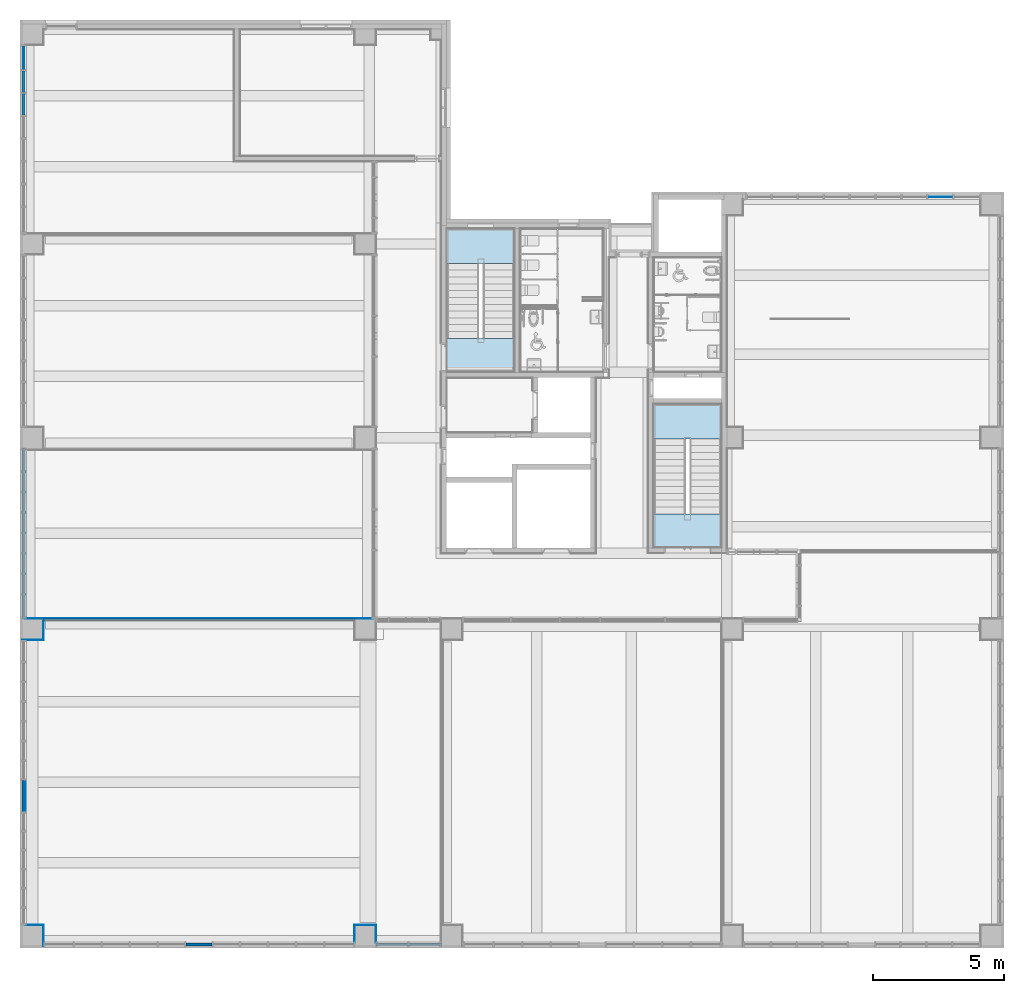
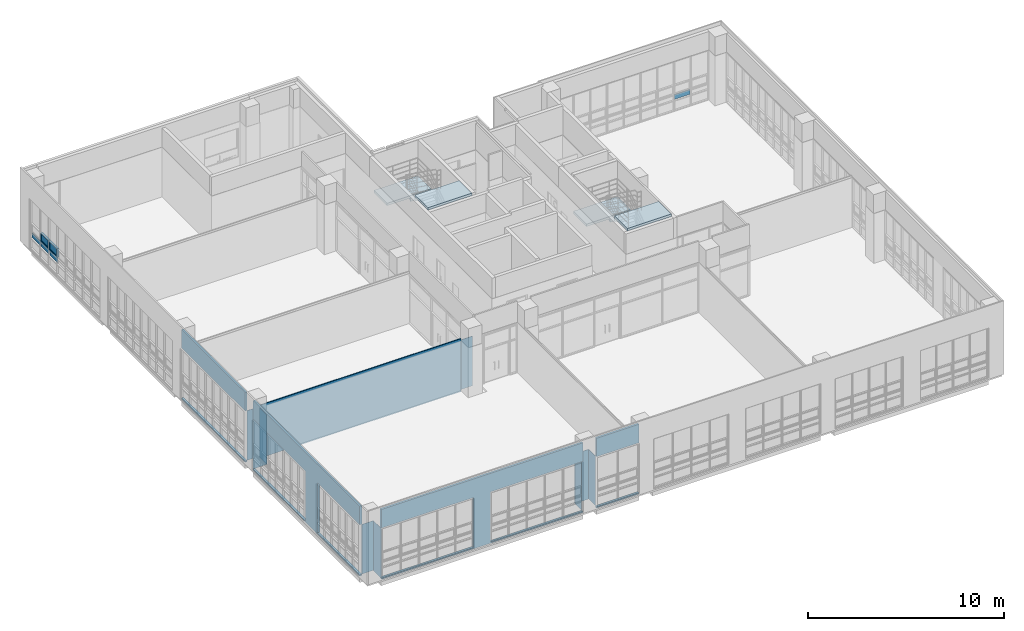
# One storey, part 45 of 74: 14 walls, 6 plates, 4 slabs, 6 openings, 4 elements without a shape of their own.
"""IFC2X3 building model written with IfcOpenShell, lengths in millimetres."""

from ifc_helpers import new_model, entity, si_unit, converted_unit, derived_unit, direction, frame, frame_2d, origin, origin_2d_with_axis, place, context, subcontext, project, spatial, polyline, rectangle, outline, extrude, clip, bounded_halfspace, faceted_brep, source, transform, mapped, material, material_list, layer, layer_set, layer_usage, type_object, type_shapes, element, aggregate, save


model = new_model("IFC2X3")

# Units and contexts
model_context = context("Model", 3, precision=0.01, world=origin(), true_north=direction((6.123031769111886e-17, 1.0)))
body_context = subcontext(model_context, "Body", "Model", "MODEL_VIEW")
ifc_project = project(units=[si_unit("LENGTHUNIT", "METRE", prefix="MILLI"), si_unit("AREAUNIT", "SQUARE_METRE"), si_unit("VOLUMEUNIT", "CUBIC_METRE"), converted_unit("PLANEANGLEUNIT", "DEGREE", entity("IfcRatioMeasure", 0.017453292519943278), si_unit("PLANEANGLEUNIT", "RADIAN"), dimensions=[0, 0, 0, 0, 0, 0, 0]), si_unit("MASSUNIT", "GRAM", prefix="KILO"), derived_unit("MASSDENSITYUNIT", [(si_unit("MASSUNIT", "GRAM", prefix="KILO"), 1), (si_unit("LENGTHUNIT", "METRE"), -3)]), derived_unit("MOMENTOFINERTIAUNIT", [(si_unit("LENGTHUNIT", "METRE"), 4)]), si_unit("TIMEUNIT", "SECOND"), si_unit("FREQUENCYUNIT", "HERTZ"), si_unit("THERMODYNAMICTEMPERATUREUNIT", "DEGREE_CELSIUS"), derived_unit("THERMALTRANSMITTANCEUNIT", [(si_unit("MASSUNIT", "GRAM", prefix="KILO"), 1), (si_unit("THERMODYNAMICTEMPERATUREUNIT", "KELVIN"), -1), (si_unit("TIMEUNIT", "SECOND"), -3)]), derived_unit("VOLUMETRICFLOWRATEUNIT", [(si_unit("LENGTHUNIT", "METRE"), 3), (si_unit("TIMEUNIT", "SECOND"), -1)]), derived_unit("MASSFLOWRATEUNIT", [(si_unit("MASSUNIT", "GRAM", prefix="KILO"), 1), (si_unit("TIMEUNIT", "SECOND"), -1)]), derived_unit("ROTATIONALFREQUENCYUNIT", [(si_unit("TIMEUNIT", "SECOND"), -1)]), si_unit("ELECTRICCURRENTUNIT", "AMPERE"), si_unit("ELECTRICVOLTAGEUNIT", "VOLT"), si_unit("POWERUNIT", "WATT"), si_unit("FORCEUNIT", "NEWTON", prefix="KILO"), si_unit("ILLUMINANCEUNIT", "LUX"), si_unit("LUMINOUSFLUXUNIT", "LUMEN"), si_unit("LUMINOUSINTENSITYUNIT", "CANDELA"), derived_unit("USERDEFINED", [(si_unit("MASSUNIT", "GRAM", prefix="KILO"), -1), (si_unit("LENGTHUNIT", "METRE"), -2), (si_unit("TIMEUNIT", "SECOND"), 3), (si_unit("LUMINOUSFLUXUNIT", "LUMEN"), 1)]), derived_unit("SOUNDPOWERUNIT", [(si_unit("MASSUNIT", "GRAM", prefix="KILO"), 1), (si_unit("LENGTHUNIT", "METRE"), 2), (si_unit("TIMEUNIT", "SECOND"), -3)]), derived_unit("SOUNDPRESSUREUNIT", [(si_unit("MASSUNIT", "GRAM", prefix="KILO"), 1), (si_unit("LENGTHUNIT", "METRE"), -1), (si_unit("TIMEUNIT", "SECOND"), -2)]), derived_unit("LINEARVELOCITYUNIT", [(si_unit("LENGTHUNIT", "METRE"), 1), (si_unit("TIMEUNIT", "SECOND"), -1)]), si_unit("PRESSUREUNIT", "PASCAL"), derived_unit("USERDEFINED", [(si_unit("LENGTHUNIT", "METRE"), -2), (si_unit("MASSUNIT", "GRAM", prefix="KILO"), 1), (si_unit("TIMEUNIT", "SECOND"), -2)]), derived_unit("LINEARFORCEUNIT", [(si_unit("MASSUNIT", "GRAM", prefix="KILO"), 1), (si_unit("LENGTHUNIT", "METRE"), 1), (si_unit("TIMEUNIT", "SECOND"), -2), (si_unit("LENGTHUNIT", "METRE"), -1)]), derived_unit("PLANARFORCEUNIT", [(si_unit("MASSUNIT", "GRAM", prefix="KILO"), 1), (si_unit("LENGTHUNIT", "METRE"), 1), (si_unit("TIMEUNIT", "SECOND"), -2), (si_unit("LENGTHUNIT", "METRE"), -2)])], contexts=[model_context])

# Site, building, storey
site_placement = place(None, frame((-14167.972527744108, -657.2125860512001, 0.0)))
site = spatial("IfcSite", under=ifc_project, at=site_placement, Name="Default", CompositionType="ELEMENT")
building_placement = place(site_placement, origin())
building = spatial("IfcBuilding", under=site, at=building_placement, Name="Sample Building", CompositionType="ELEMENT")
storey_placement = place(building_placement, frame((0.0, 0.0, 4800.0)))
storey = spatial("IfcBuildingStorey", under=building, at=storey_placement, Name="지상 2층", CompositionType="ELEMENT", Elevation=4800.000000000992)

# Curtain wall, plates
curtain_wall_type = type_object("IfcCurtainWallType", Name="커튼월:CW112-스테인리스 스틸 커튼월", PredefinedType="NOTDEFINED")
curtain_wall_1_placement = place(storey_placement, frame((0.0, 0.0, -4800.0)))
curtain_wall_1 = element("IfcCurtainWall", 1, at=curtain_wall_1_placement, inside=storey, type_object=curtain_wall_type, Name="커튼월:CW112-스테인리스 스틸 커튼월", ObjectType="커튼월:CW112-스테인리스 스틸 커튼월")
ifc_material_1 = material(Name="KBIMS-로이유리(코팅)")
plate_type_1 = type_object("IfcPlateType", Name="CW300-THK24.Low-e coating glass:CW300-THK24.Low-e coating glass", PredefinedType="CURTAIN_PANEL", material=ifc_material_1)
shared_shape_1 = source(origin(), body_context, "Body", "SweptSolid", [
    extrude(rectangle(XDim=24.000000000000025, YDim=903.7499999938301, at=origin_2d_with_axis()), frame((0.0, 0.0, 0.0), z_axis=(0.0, 0.0, 1.0), x_axis=(0.0, 1.0, 0.0)), (0.0, 0.0, 1.0), 300.0000000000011),
])
type_shapes(plate_type_1, [shared_shape_1])
plate_1_placement = place(curtain_wall_1_placement, frame((14130.455105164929, 34465.33727524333, 5555.0), z_axis=(0.0, 0.0, 1.0), x_axis=(0.0, -1.0, 0.0)))
plate_1 = element("IfcPlate", 2, at=plate_1_placement, type_object=plate_type_1, material=ifc_material_1, Name="CW300-THK24.Low-e coating glass:CW300-THK24.Low-e coating glass", ObjectType="CW300-THK24.Low-e coating glass:CW300-THK24.Low-e coating glass", context=body_context, shape_type="MappedRepresentation", body=[
    mapped(shared_shape_1, transform((0.0, 0.0, 0.0), scale=1.0)),
])
plate_type_2 = type_object("IfcPlateType", Name="CW300-THK24.Low-e coating glass:CW300-THK24.Low-e coating glass", PredefinedType="CURTAIN_PANEL", material=ifc_material_1)
shared_shape_2 = source(origin(), body_context, "Body", "SweptSolid", [
    extrude(rectangle(XDim=24.000000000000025, YDim=818.7500000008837, at=origin_2d_with_axis()), frame((0.0, 0.0, 0.0), z_axis=(0.0, 0.0, 1.0), x_axis=(0.0, 1.0, 0.0)), (0.0, 0.0, 1.0), 300.0000000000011),
])
type_shapes(plate_type_2, [shared_shape_2])
plate_2_placement = place(curtain_wall_1_placement, frame((14130.455105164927, 33554.08727524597, 5555.0), z_axis=(0.0, 0.0, 1.0), x_axis=(0.0, -1.0, 0.0)))
plate_2 = element("IfcPlate", 3, at=plate_2_placement, type_object=plate_type_2, material=ifc_material_1, Name="CW300-THK24.Low-e coating glass:CW300-THK24.Low-e coating glass", ObjectType="CW300-THK24.Low-e coating glass:CW300-THK24.Low-e coating glass", context=body_context, shape_type="MappedRepresentation", body=[
    mapped(shared_shape_2, transform((0.0, 0.0, 0.0), scale=1.0)),
])
plate_3_placement = place(curtain_wall_1_placement, frame((14130.455105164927, 32685.33727524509, 5555.0), z_axis=(0.0, 0.0, 1.0), x_axis=(0.0, -1.0, 0.0)))
plate_3 = element("IfcPlate", 4, at=plate_3_placement, type_object=plate_type_2, material=ifc_material_1, Name="CW300-THK24.Low-e coating glass:CW300-THK24.Low-e coating glass", ObjectType="CW300-THK24.Low-e coating glass:CW300-THK24.Low-e coating glass", context=body_context, shape_type="MappedRepresentation", body=[
    mapped(shared_shape_2, transform((0.0, 0.0, 0.0), scale=1.0)),
])
ifc_material_2 = material(Name="KBIMS-유리")
ifc_material_3 = material(Name="KBIMS-알루미늄")
ifc_material_list_1 = material_list([ifc_material_2, ifc_material_3])
ifc_material_list_2 = material_list([ifc_material_2, ifc_material_3])
plate_type_3 = type_object("IfcPlateType", Name="CW410-프로젝트 창:CW410-프로젝트 창 (하부개폐)", PredefinedType="CURTAIN_PANEL", material=ifc_material_list_2)
shared_shape_3 = source(origin(), body_context, "Body", "SweptSolid", [
    extrude(rectangle(XDim=718.7500000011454, YDim=23.999999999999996, at=origin_2d_with_axis()), frame((0.0, -0.04999999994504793, 50.0), z_axis=(0.0, 0.0, 1.0), x_axis=(-1.0, 0.0, 0.0)), (0.0, 0.0, 1.0), 450.0000000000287),
    extrude(outline(polyline([(-409.37500000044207, -275.0), (409.37500000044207, -275.0), (409.37500000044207, 275.0), (-409.37500000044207, 275.0), (-409.37500000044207, -275.0)]), holes=[polyline([(-359.3750000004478, -225.0), (-359.37500000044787, 225.0), (359.3750000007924, 225.0), (359.3750000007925, -225.0), (-359.3750000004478, -225.0)])]), frame((0.0, -50.04999999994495, 275.0), z_axis=(0.0, 1.0, 0.0), x_axis=(1.0, 0.0, 0.0)), (0.0, 0.0, 1.0), 99.99999999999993),
])
type_shapes(plate_type_3, [shared_shape_3])
plate_4_placement = place(curtain_wall_1_placement, frame((14130.455105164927, 33554.08727524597, 5905.0), z_axis=(0.0, 0.0, 1.0), x_axis=(0.0, -1.0, 0.0)))
plate_4 = element("IfcPlate", 5, at=plate_4_placement, type_object=plate_type_3, material=ifc_material_list_1, Name="CW410-프로젝트 창:CW410-프로젝트 창 (하부개폐)", ObjectType="CW410-프로젝트 창:CW410-프로젝트 창 (하부개폐)", context=body_context, shape_type="MappedRepresentation", body=[
    mapped(shared_shape_3, transform((0.0, 0.0, 0.0), scale=1.0)),
])
ifc_material_list_3 = material_list([ifc_material_2, ifc_material_3])
plate_5_placement = place(curtain_wall_1_placement, frame((14130.455105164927, 32685.33727524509, 5905.0), z_axis=(0.0, 0.0, 1.0), x_axis=(0.0, -1.0, 0.0)))
plate_5 = element("IfcPlate", 6, at=plate_5_placement, type_object=plate_type_3, material=ifc_material_list_3, Name="CW410-프로젝트 창:CW410-프로젝트 창 (하부개폐)", ObjectType="CW410-프로젝트 창:CW410-프로젝트 창 (하부개폐)", context=body_context, shape_type="MappedRepresentation", body=[
    mapped(shared_shape_3, transform((0.0, 0.0, 0.0), scale=1.0)),
])
aggregate(curtain_wall_1, [plate_1, plate_2, plate_3, plate_4, plate_5])

# Curtain wall, plate
curtain_wall_2_placement = place(storey_placement, frame((0.0, 0.0, -4800.0)))
curtain_wall_2 = element("IfcCurtainWall", 7, at=curtain_wall_2_placement, inside=storey, type_object=curtain_wall_type, Name="커튼월:CW112-스테인리스 스틸 커튼월", ObjectType="커튼월:CW112-스테인리스 스틸 커튼월")
plate_type_4 = type_object("IfcPlateType", Name="CW300-THK24.Low-e coating glass:CW300-THK24.Low-e coating glass", PredefinedType="CURTAIN_PANEL", material=ifc_material_1)
shared_shape_4 = source(origin(), body_context, "Body", "SweptSolid", [
    extrude(rectangle(XDim=938.8888888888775, YDim=24.000000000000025, at=origin_2d_with_axis()), frame((0.0, 0.0, 0.0), z_axis=(0.0, 0.0, 1.0), x_axis=(-1.0, 0.0, 0.0)), (0.0, 0.0, 1.0), 300.0),
])
type_shapes(plate_type_4, [shared_shape_4])
plate_6_placement = place(curtain_wall_2_placement, frame((49114.21332519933, 29157.212295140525, 5555.0), z_axis=(0.0, 0.0, 1.0), x_axis=(-1.0, 0.0, 0.0)))
plate_6 = element("IfcPlate", 8, at=plate_6_placement, type_object=plate_type_4, material=ifc_material_1, Name="CW300-THK24.Low-e coating glass:CW300-THK24.Low-e coating glass", ObjectType="CW300-THK24.Low-e coating glass:CW300-THK24.Low-e coating glass", context=body_context, shape_type="MappedRepresentation", body=[
    mapped(shared_shape_4, transform((0.0, 0.0, 0.0), scale=1.0)),
])
aggregate(curtain_wall_2, [plate_6])

# Stair, slabs
stair_1_placement = place(storey_placement, origin())
stair_1 = element("IfcStair", 9, at=stair_1_placement, inside=storey, Name="현장타설 계단:계단", ObjectType="현장타설 계단:ST111-철근콘크리트구조 계단 (U형)", ShapeType="NOTDEFINED")
ifc_material_4 = material(Name="KBIMS-콘크리트")
slab_type_1 = type_object("IfcSlabType", Name="일체형 계단참:일체형 계단참 150mm_철근콘크리트", PredefinedType="LANDING")
slab_1_placement = place(stair_1_placement, frame((30267.963761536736, 26617.17766047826, 0.0)))
slab_1 = element("IfcSlab", 10, at=slab_1_placement, type_object=slab_type_1, material=ifc_material_4, Name="현장타설 계단:계단:5948802 Landing 1", ObjectType="일체형 계단참:일체형 계단참 150mm_철근콘크리트", PredefinedType="LANDING", context=body_context, shape_type="Brep", body=[
    faceted_brep([(1375.0087136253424, 0.0, 2250.0), (2598.1542295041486, 0.0, 2250.0), (2598.1542295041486, 308.44492586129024, 2250.0), (2598.1542295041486, 1340.0346475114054, 2250.0), (0.0, 1340.0346475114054, 2250.0), (0.0, 0.0, 2250.0), (1248.1620529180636, 0.0, 2250.0), (1375.0087136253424, 0.0, 2100.0), (1375.0087136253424, 0.0, 2062.499999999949), (1375.0087136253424, 0.0, 1877.5637553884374), (2598.1542295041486, 0.0, 1877.5637553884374), (2598.1542295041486, 0.0, 2062.499999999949), (2598.1542295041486, 308.44492586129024, 2100.0), (2598.1542295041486, 1340.0346475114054, 2100.0), (0.0, 1340.0346475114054, 2100.0), (0.0, 0.0, 2100.0), (1248.1620529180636, 0.0, 2100.0), (1375.0087136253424, 308.44492586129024, 2100.0)], [[[0, 1, 2, 3, 4, 5, 6]], [[1, 0, 7, 8, 9, 10, 11]], [[1, 11, 10, 12, 13, 3, 2]], [[4, 3, 13, 14]], [[5, 4, 14, 15]], [[6, 5, 15, 16]], [[0, 6, 16, 7]], [[12, 17, 7, 16, 15, 14, 13]], [[17, 12, 10, 9]], [[7, 17, 9, 8]]]),
])
slab_type_2 = type_object("IfcSlabType", Name="일체형 계단참:일체형 계단참 150mm_철근콘크리트", PredefinedType="LANDING")
slab_2_placement = place(stair_1_placement, frame((30266.40695082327, 22457.21231133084, 0.0)))
slab_2 = element("IfcSlab", 11, at=slab_2_placement, type_object=slab_type_2, material=ifc_material_4, Name="현장타설 계단:계단:5948802 Landing 2", ObjectType="일체형 계단참:일체형 계단참 150mm_철근콘크리트", PredefinedType="LANDING", context=body_context, shape_type="Brep", body=[
    faceted_brep([(1249.7188636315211, 1299.9653491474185, 4500.0), (1.5568107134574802, 1299.9653491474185, 4500.0), (0.0, 1299.9653491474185, 4500.0), (0.0, 0.0, 4500.0), (2599.711040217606, 0.0, 4500.0), (2599.711040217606, 1299.9653491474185, 4500.0), (0.0, 0.0, 4350.0), (2599.711040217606, 0.0, 4350.0), (2599.711040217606, 1299.9653491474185, 4350.0), (0.0, 1299.9653491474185, 4350.0), (1.5568107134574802, 991.5204232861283, 4350.0), (1249.7188636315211, 991.5204232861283, 4350.0), (1249.7188636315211, 1299.9653491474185, 4350.0), (1.5568107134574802, 1299.9653491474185, 4350.0), (1249.7188636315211, 1299.9653491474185, 4312.500000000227), (1249.7188636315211, 1299.9653491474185, 4127.563755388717), (1.5568107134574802, 1299.9653491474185, 4127.563755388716), (1.5568107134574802, 1299.9653491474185, 4312.500000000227)], [[[0, 1, 2, 3, 4, 5]], [[4, 3, 6, 7]], [[5, 4, 7, 8]], [[3, 2, 9, 6]], [[10, 11, 12, 8, 7, 6, 9, 13]], [[1, 0, 12, 14, 15, 16, 17, 13]], [[0, 5, 8, 12]], [[11, 10, 16, 15]], [[10, 13, 17, 16]], [[12, 11, 15, 14]], [[2, 1, 13, 9]]]),
])
aggregate(stair_1, [slab_1, slab_2])

stair_2_placement = place(storey_placement, origin())
stair_2 = element("IfcStair", 12, at=stair_2_placement, inside=storey, Name="현장타설 계단:계단", ObjectType="현장타설 계단:ST111-철근콘크리트구조 계단 (U형)", ShapeType="NOTDEFINED")
slab_type_3 = type_object("IfcSlabType", Name="일체형 계단참:일체형 계단참 150mm_철근콘크리트", PredefinedType="LANDING")
slab_3_placement = place(stair_2_placement, frame((38159.80174523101, 19917.17764428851, 0.0)))
slab_3 = element("IfcSlab", 13, at=slab_3_placement, type_object=slab_type_3, material=ifc_material_4, Name="현장타설 계단:계단:5959476 Landing 1", ObjectType="일체형 계단참:일체형 계단참 150mm_철근콘크리트", PredefinedType="LANDING", context=body_context, shape_type="Brep", body=[
    faceted_brep([(1375.0087136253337, 0.0, 2250.0), (2598.1542295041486, 0.0, 2250.0), (2598.1542295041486, 308.44492586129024, 2250.0), (2598.1542295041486, 1340.0346475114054, 2250.0), (0.0, 1340.0346475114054, 2250.0), (0.0, 0.0, 2250.0), (1248.1620529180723, 0.0, 2250.0), (1375.0087136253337, 0.0, 2100.0), (1375.0087136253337, 0.0, 2062.499999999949), (1375.0087136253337, 0.0, 1877.5637553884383), (2598.1542295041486, 0.0, 1877.5637553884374), (2598.1542295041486, 0.0, 2062.499999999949), (2598.1542295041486, 308.44492586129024, 2100.0), (2598.1542295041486, 1340.0346475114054, 2100.0), (0.0, 1340.0346475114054, 2100.0), (0.0, 0.0, 2100.0), (1248.1620529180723, 0.0, 2100.0), (1375.0087136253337, 308.44492586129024, 2100.0)], [[[0, 1, 2, 3, 4, 5, 6]], [[1, 0, 7, 8, 9, 10, 11]], [[1, 11, 10, 12, 13, 3, 2]], [[4, 3, 13, 14]], [[5, 4, 14, 15]], [[6, 5, 15, 16]], [[0, 6, 16, 7]], [[12, 17, 7, 16, 15, 14, 13]], [[17, 12, 10, 9]], [[7, 17, 9, 8]]]),
])
slab_type_4 = type_object("IfcSlabType", Name="일체형 계단참:일체형 계단참 150mm_철근콘크리트", PredefinedType="LANDING")
slab_4_placement = place(stair_2_placement, frame((38158.244934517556, 15757.212295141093, 0.0)))
slab_4 = element("IfcSlab", 14, at=slab_4_placement, type_object=slab_type_4, material=ifc_material_4, Name="현장타설 계단:계단:5959476 Landing 2", ObjectType="일체형 계단참:일체형 계단참 150mm_철근콘크리트", PredefinedType="LANDING", context=body_context, shape_type="Brep", body=[
    faceted_brep([(1249.7188636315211, 1299.9653491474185, 4500.0), (1.5568107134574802, 1299.9653491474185, 4500.0), (0.0, 1299.9653491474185, 4500.0), (0.0, 0.0, 4500.0), (2599.711040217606, 0.0, 4500.0), (2599.711040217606, 1299.9653491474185, 4500.0), (0.0, 0.0, 4350.0), (2599.711040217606, 0.0, 4350.0), (2599.711040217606, 1299.9653491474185, 4350.0), (0.0, 1299.9653491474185, 4350.0), (1.5568107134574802, 991.5204232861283, 4350.0), (1249.7188636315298, 991.5204232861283, 4350.0), (1249.7188636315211, 1299.9653491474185, 4350.0), (1.5568107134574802, 1299.9653491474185, 4350.0), (1249.7188636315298, 1299.9653491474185, 4312.500000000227), (1249.7188636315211, 1299.9653491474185, 4127.563755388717), (1.5568107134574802, 1299.9653491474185, 4127.563755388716), (1.5568107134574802, 1299.9653491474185, 4312.500000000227)], [[[0, 1, 2, 3, 4, 5]], [[4, 3, 6, 7]], [[5, 4, 7, 8]], [[3, 2, 9, 6]], [[10, 11, 12, 8, 7, 6, 9, 13]], [[1, 0, 12, 14, 15, 16, 17, 13]], [[0, 5, 8, 12]], [[11, 10, 16, 15]], [[10, 13, 17, 16]], [[12, 11, 15, 14]], [[2, 1, 13, 9]]]),
])
aggregate(stair_2, [slab_3, slab_4])

# Wall
ifc_material_5 = material(Name="KBIMS-DRY WALL")
ifc_layer_1 = layer(ifc_material_5, 12.5)
ifc_material_6 = material(Name="KBIMS-경량철골벽틀")
ifc_layer_2 = layer(ifc_material_6, 50.0)
ifc_layer_set_1 = layer_set([ifc_layer_1, ifc_layer_2], Name="기본 벽:WA731-DRY WALL(C50, GS12.5mm) (1겹한면, GW50mm) 62.5mm")
ifc_layer_usage_1 = layer_usage(ifc_layer_set_1, "AXIS2", "NEGATIVE", 31.250000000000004)
wall_type_1 = type_object("IfcWallType", Name="기본 벽:WA731-DRY WALL(C50, GS12.5mm) (1겹한면, GW50mm) 62.5mm", PredefinedType="STANDARD", material=ifc_layer_set_1)
wall_1_placement = place(storey_placement, frame((14866.980314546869, 13025.927624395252, 0.0)))
element("IfcWallStandardCase", 15, at=wall_1_placement, inside=storey, type_object=wall_type_1, material=ifc_layer_usage_1, Name="기본 벽:WA731-DRY WALL(C50, GS12.5mm) (1겹한면, GW50mm) 62.5mm", ObjectType="기본 벽:WA731-DRY WALL(C50, GS12.5mm) (1겹한면, GW50mm) 62.5mm", context=body_context, shape_type="SweptSolid", body=[
    extrude(rectangle(XDim=11900.992176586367, YDim=62.50000000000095, at=frame_2d((5950.496088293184, -1.3606893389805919e-12), x_axis=(-1.0, 0.0))), origin(), (0.0, 0.0, 1.0), 3300.0000000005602),
])

# Wall, opening
ifc_layer_3 = layer(ifc_material_4, 125.00000000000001)
ifc_layer_set_2 = layer_set([ifc_layer_3], Name="기본 벽:WA111-철근콘크리트구조 벽 125mm_W3")
ifc_layer_usage_2 = layer_usage(ifc_layer_set_2, "AXIS2", "NEGATIVE", 62.50000000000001)
wall_type_2 = type_object("IfcWallType", Name="기본 벽:WA111-철근콘크리트구조 벽 125mm_W3", PredefinedType="STANDARD", material=ifc_layer_set_2)
wall_2_placement = place(storey_placement, frame((14130.472570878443, 19557.212307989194, -1.9340006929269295e-09), z_axis=(0.0, 0.0, 1.0), x_axis=(0.0, -1.0, 0.0)))
wall_2 = element("IfcWallStandardCase", 16, at=wall_2_placement, inside=storey, type_object=wall_type_2, material=ifc_layer_usage_2, Name="기본 벽:WA111-철근콘크리트구조 벽 125mm_W3", ObjectType="기본 벽:WA111-철근콘크리트구조 벽 125mm_W3", context=body_context, shape_type="Clipping", body=[
    clip(extrude(rectangle(XDim=6499.999999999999, YDim=124.99999999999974, at=frame_2d((3249.9999999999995, 1.0835776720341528e-12), x_axis=(-1.0, 0.0))), origin(), (0.0, 0.0, 1.0), 4350.000000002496), bounded_halfspace(frame((0.0, -62.499999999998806, 4350.0), z_axis=(0.0, 0.0, -1.0), x_axis=(0.0, 1.0, 0.0)), True, frame((0.0, -62.499999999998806, 4350.0), z_axis=(0.0, 0.0, -1.0), x_axis=(0.0, 1.0, 0.0)), polyline([(0.0, 0.0), (38100.0, 0.0), (38100.0, 1981200.0), (0.0, 1981200.0), (0.0, 0.0)]))),
])
opening_1_placement = place(wall_2_placement, origin())
element("IfcOpeningElement", 17, at=opening_1_placement, cuts=wall_2, Name="기본 벽:WA111-철근콘크리트구조 벽 125mm_W3", ObjectType="Opening", context=body_context, shape_type="SweptSolid", body=[
    extrude(rectangle(XDim=3120.0000000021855, YDim=6500.0, at=frame_2d((-5.684341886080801e-13, -2.0463630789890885e-12), x_axis=(1.0, 0.0))), frame((3250.0, -214.89999999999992, 1640.0), z_axis=(0.0, 1.0, 0.0), x_axis=(0.0, 0.0, 1.0)), (0.0, 0.0, 1.0), 429.7999999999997),
])

# Wall, openings
ifc_layer_usage_3 = layer_usage(ifc_layer_set_2, "AXIS2", "POSITIVE", -62.50000000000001)
wall_3_placement = place(storey_placement, frame((14130.47257087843, 1357.2118860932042, -1.9340006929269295e-09), z_axis=(0.0, 0.0, 1.0), x_axis=(0.0, 1.0, 0.0)))
wall_3 = element("IfcWallStandardCase", 18, at=wall_3_placement, inside=storey, type_object=wall_type_2, material=ifc_layer_usage_3, Name="기본 벽:WA111-철근콘크리트구조 벽 125mm_W3", ObjectType="기본 벽:WA111-철근콘크리트구조 벽 125mm_W3", context=body_context, shape_type="Clipping", body=[
    clip(extrude(rectangle(XDim=10882.000421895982, YDim=124.99999999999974, at=frame_2d((5441.000210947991, 1.0409451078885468e-12), x_axis=(-1.0, 0.0))), origin(), (0.0, 0.0, 1.0), 4350.000000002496), bounded_halfspace(frame((0.0, -62.49999999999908, 4350.0), z_axis=(0.0, 0.0, -1.0), x_axis=(0.0, -1.0, 0.0)), True, frame((0.0, -62.49999999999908, 4350.0), z_axis=(0.0, 0.0, -1.0), x_axis=(0.0, -1.0, 0.0)), polyline([(0.0, 0.0), (-38100.0, 0.0), (-38100.0, -3316833.7285938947), (1.5183962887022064e-08, -3316833.7285938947), (0.0, 0.0)]))),
])
opening_2_placement = place(wall_3_placement, origin())
element("IfcOpeningElement", 19, at=opening_2_placement, cuts=wall_3, Name="기본 벽:WA111-철근콘크리트구조 벽 125mm_W3", ObjectType="Opening", context=body_context, shape_type="SweptSolid", body=[
    extrude(rectangle(XDim=3120.0000000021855, YDim=5357.000032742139, at=frame_2d((0.0, -5.684341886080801e-13), x_axis=(0.0, 1.0))), frame((8203.500405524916, -214.8999999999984, 1640.0), z_axis=(0.0, 1.0, 0.0), x_axis=(-1.0, 0.0, 0.0)), (0.0, 0.0, 1.0), 429.7999999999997),
])
opening_3_placement = place(wall_3_placement, origin())
element("IfcOpeningElement", 20, at=opening_3_placement, cuts=wall_3, Name="기본 벽:WA111-철근콘크리트구조 벽 125mm_W3", ObjectType="Opening", context=body_context, shape_type="SweptSolid", body=[
    extrude(rectangle(XDim=3120.0000000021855, YDim=4322.746367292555, at=frame_2d((0.0, -5.684341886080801e-13), x_axis=(0.0, 1.0))), frame((2160.8895945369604, -214.90000000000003, 1640.0), z_axis=(0.0, 1.0, 0.0), x_axis=(-1.0, 0.0, 0.0)), (0.0, 0.0, 1.0), 429.7999999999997),
])

ifc_layer_usage_4 = layer_usage(ifc_layer_set_2, "AXIS2", "POSITIVE", -62.50000000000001)
wall_4_placement = place(storey_placement, frame((26767.97249113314, 619.712295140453, -1.9340006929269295e-09), z_axis=(0.0, 0.0, 1.0), x_axis=(-1.0, 0.0, 0.0)))
wall_4 = element("IfcWallStandardCase", 21, at=wall_4_placement, inside=storey, type_object=wall_type_2, material=ifc_layer_usage_4, Name="기본 벽:WA111-철근콘크리트구조 벽 125mm_W3", ObjectType="기본 벽:WA111-철근콘크리트구조 벽 125mm_W3", context=body_context, shape_type="Clipping", body=[
    clip(extrude(rectangle(XDim=11882.000036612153, YDim=125.00000000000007, at=frame_2d((5941.0000183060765, 4.263256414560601e-14), x_axis=(-1.0, 0.0))), origin(), (0.0, 0.0, 1.0), 4350.000000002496), bounded_halfspace(frame((0.0, -62.50000000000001, 4350.0), z_axis=(0.0, 0.0, -1.0), x_axis=(-1.0, 0.0, 0.0)), True, frame((0.0, -62.50000000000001, 4350.0), z_axis=(0.0, 0.0, -1.0), x_axis=(-1.0, 0.0, 0.0)), polyline([(0.0, 0.0), (0.0, 38100.0), (-3621633.6111593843, 38100.0), (-3621633.6111593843, -2.298710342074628e-08), (0.0, 0.0)]))),
])
opening_4_placement = place(wall_4_placement, origin())
element("IfcOpeningElement", 22, at=opening_4_placement, cuts=wall_4, Name="기본 벽:WA111-철근콘크리트구조 벽 125mm_W3", ObjectType="Opening", context=body_context, shape_type="SweptSolid", body=[
    extrude(rectangle(XDim=3120.0000000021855, YDim=5432.026031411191, at=frame_2d((-2.2737367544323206e-12, -5.684341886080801e-13), x_axis=(0.0, 1.0))), frame((9165.987020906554, -214.89999999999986, 1640.0), z_axis=(0.0, 1.0, 0.0), x_axis=(-1.0, 0.0, 0.0)), (0.0, 0.0, 1.0), 429.7999999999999),
])
opening_5_placement = place(wall_4_placement, origin())
element("IfcOpeningElement", 23, at=opening_5_placement, cuts=wall_4, Name="기본 벽:WA111-철근콘크리트구조 벽 125mm_W3", ObjectType="Opening", context=body_context, shape_type="SweptSolid", body=[
    extrude(rectangle(XDim=3120.0000000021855, YDim=5450.114959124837, at=frame_2d((0.0, -5.684341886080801e-13), x_axis=(0.0, 1.0))), frame((2725.0574795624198, -214.89999999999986, 1640.0), z_axis=(0.0, 1.0, 0.0), x_axis=(-1.0, 0.0, 0.0)), (0.0, 0.0, 1.0), 429.7999999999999),
])

# Wall, opening
ifc_layer_usage_5 = layer_usage(ifc_layer_set_2, "AXIS2", "NEGATIVE", 62.50000000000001)
wall_5_placement = place(storey_placement, frame((27567.97249113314, 619.7122951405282, -1.9340006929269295e-09)))
wall_5 = element("IfcWallStandardCase", 24, at=wall_5_placement, inside=storey, type_object=wall_type_2, material=ifc_layer_usage_5, Name="기본 벽:WA111-철근콘크리트구조 벽 125mm_W3", ObjectType="기본 벽:WA111-철근콘크리트구조 벽 125mm_W3", context=body_context, shape_type="Clipping", body=[
    clip(extrude(rectangle(XDim=2499.9826232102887, YDim=125.00000000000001, at=frame_2d((1249.9913116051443, 0.0), x_axis=(-1.0, 0.0))), origin(), (0.0, 0.0, 1.0), 4350.000000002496), bounded_halfspace(frame((0.0, -62.50000000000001, 4350.0), z_axis=(0.0, 0.0, -1.0), x_axis=(1.0, 0.0, 0.0)), True, frame((0.0, -62.50000000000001, 4350.0), z_axis=(0.0, 0.0, -1.0), x_axis=(1.0, 0.0, 0.0)), polyline([(0.0, 0.0), (0.0, -38100.0), (761994.703554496, -38100.0), (761994.7035544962, -4.827421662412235e-09), (0.0, 0.0)]))),
])
opening_6_placement = place(wall_5_placement, origin())
element("IfcOpeningElement", 25, at=opening_6_placement, cuts=wall_5, Name="기본 벽:WA111-철근콘크리트구조 벽 125mm_W3", ObjectType="Opening", context=body_context, shape_type="SweptSolid", body=[
    extrude(rectangle(XDim=3120.0000000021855, YDim=2499.999972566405, at=frame_2d((-5.684341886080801e-13, 0.0), x_axis=(1.0, 0.0))), frame((1249.9999862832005, -214.9000000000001, 1640.0), z_axis=(0.0, 1.0, 0.0), x_axis=(0.0, 0.0, 1.0)), (0.0, 0.0, 1.0), 429.7999999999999),
])

# Walls
ifc_material_7 = material(Name="WA611-수성페인트 (내부) 벽 (3회)")
ifc_layer_4 = layer(ifc_material_7, 1.0)
ifc_material_8 = material(Name="WA551-시멘트모르타르 (내부) 벽 18mm")
ifc_layer_5 = layer(ifc_material_8, 16.0)
ifc_material_9 = material(Name="WA555-콘크리트면정리 벽 (내부)")
ifc_layer_6 = layer(ifc_material_9, 1.0)
ifc_layer_set_3 = layer_set([ifc_layer_4, ifc_layer_5, ifc_layer_6], Name="기본 벽:A1-32-06A-콘크리트면정리, 시멘트모르타르(미장용), 수성페인트(내부) (18mm)")
ifc_layer_usage_6 = layer_usage(ifc_layer_set_3, "AXIS2", "POSITIVE", -9.000000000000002)
wall_type_3 = type_object("IfcWallType", Name="기본 벽:A1-32-06A-콘크리트면정리, 시멘트모르타르(미장용), 수성페인트(내부) (18mm)", PredefinedType="STANDARD", material=ifc_layer_set_3)
wall_6_placement = place(storey_placement, frame((27477.972491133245, 13066.212307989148, 80.0), z_axis=(0.0, 0.0, 1.0), x_axis=(-1.0, 0.0, 0.0)))
element("IfcWallStandardCase", 26, at=wall_6_placement, inside=storey, type_object=wall_type_3, material=ifc_layer_usage_6, Name="기본 벽:A1-32-06A-콘크리트면정리, 시멘트모르타르(미장용), 수성페인트(내부) (18mm)", ObjectType="기본 벽:A1-32-06A-콘크리트면정리, 시멘트모르타르(미장용), 수성페인트(내부) (18mm)", context=body_context, shape_type="SweptSolid", body=[
    extrude(rectangle(XDim=13284.999920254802, YDim=18.00000000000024, at=frame_2d((6642.499960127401, -9.14823772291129e-14), x_axis=(-1.0, 0.0))), origin(), (0.0, 0.0, 1.0), 3100.0000000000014),
])
ifc_layer_usage_7 = layer_usage(ifc_layer_set_3, "AXIS2", "POSITIVE", -9.000000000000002)
wall_7_placement = place(storey_placement, frame((14067.972454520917, 12248.212307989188, 80.0)))
element("IfcWallStandardCase", 27, at=wall_7_placement, inside=storey, type_object=wall_type_3, material=ifc_layer_usage_7, Name="기본 벽:A1-32-06A-콘크리트면정리, 시멘트모르타르(미장용), 수성페인트(내부) (18mm)", ObjectType="기본 벽:A1-32-06A-콘크리트면정리, 시멘트모르타르(미장용), 수성페인트(내부) (18mm)", context=body_context, shape_type="SweptSolid", body=[
    extrude(rectangle(XDim=818.0000000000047, YDim=18.00000000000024, at=frame_2d((409.00000000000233, -5.240252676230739e-14), x_axis=(-1.0, 0.0))), origin(), (0.0, 0.0, 1.0), 3100.0000000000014),
])
ifc_layer_usage_8 = layer_usage(ifc_layer_set_3, "AXIS2", "POSITIVE", -9.000000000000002)
wall_8_placement = place(storey_placement, frame((14876.972454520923, 12257.212307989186, 80.0), z_axis=(0.0, 0.0, 1.0), x_axis=(0.0, 1.0, 0.0)))
element("IfcWallStandardCase", 28, at=wall_8_placement, inside=storey, type_object=wall_type_3, material=ifc_layer_usage_8, Name="기본 벽:A1-32-06A-콘크리트면정리, 시멘트모르타르(미장용), 수성페인트(내부) (18mm)", ObjectType="기본 벽:A1-32-06A-콘크리트면정리, 시멘트모르타르(미장용), 수성페인트(내부) (18mm)", context=body_context, shape_type="SweptSolid", body=[
    extrude(rectangle(XDim=719.4653164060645, YDim=18.000000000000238, at=frame_2d((359.73265820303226, 0.0), x_axis=(-1.0, 0.0))), origin(), (0.0, 0.0, 1.0), 3100.0000000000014),
])
ifc_layer_usage_9 = layer_usage(ifc_layer_set_3, "AXIS2", "POSITIVE", -9.000000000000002)
wall_9_placement = place(storey_placement, frame((27576.97249113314, 682.2122951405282, 80.0), z_axis=(0.0, 0.0, 1.0), x_axis=(0.0, 1.0, 0.0)))
element("IfcWallStandardCase", 29, at=wall_9_placement, inside=storey, type_object=wall_type_3, material=ifc_layer_usage_9, Name="기본 벽:A1-32-06A-콘크리트면정리, 시멘트모르타르(미장용), 수성페인트(내부) (18mm)", ObjectType="기본 벽:A1-32-06A-콘크리트면정리, 시멘트모르타르(미장용), 수성페인트(내부) (18mm)", context=body_context, shape_type="SweptSolid", body=[
    extrude(rectangle(XDim=692.9995909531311, YDim=18.00000000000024, at=frame_2d((346.49979547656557, -2.1662671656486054e-12), x_axis=(-1.0, 0.0))), origin(), (0.0, 0.0, 1.0), 3100.0000000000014),
])
ifc_layer_usage_10 = layer_usage(ifc_layer_set_3, "AXIS2", "POSITIVE", -9.000000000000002)
wall_10_placement = place(storey_placement, frame((27567.97249113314, 1366.2118860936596, 80.0), z_axis=(0.0, 0.0, 1.0), x_axis=(-1.0, 0.0, 0.0)))
element("IfcWallStandardCase", 30, at=wall_10_placement, inside=storey, type_object=wall_type_3, material=ifc_layer_usage_10, Name="기본 벽:A1-32-06A-콘크리트면정리, 시멘트모르타르(미장용), 수성페인트(내부) (18mm)", ObjectType="기본 벽:A1-32-06A-콘크리트면정리, 시멘트모르타르(미장용), 수성페인트(내부) (18mm)", context=body_context, shape_type="SweptSolid", body=[
    extrude(rectangle(XDim=818.0000000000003, YDim=17.999999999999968, at=frame_2d((409.00000000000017, 1.3500311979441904e-13), x_axis=(-1.0, 0.0))), origin(), (0.0, 0.0, 1.0), 3100.0000000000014),
])
ifc_layer_usage_11 = layer_usage(ifc_layer_set_3, "AXIS2", "POSITIVE", -9.000000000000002)
wall_11_placement = place(storey_placement, frame((26758.972491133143, 1357.2118860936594, 80.0), z_axis=(0.0, 0.0, 1.0), x_axis=(0.0, -1.0, 0.0)))
element("IfcWallStandardCase", 31, at=wall_11_placement, inside=storey, type_object=wall_type_3, material=ifc_layer_usage_11, Name="기본 벽:A1-32-06A-콘크리트면정리, 시멘트모르타르(미장용), 수성페인트(내부) (18mm)", ObjectType="기본 벽:A1-32-06A-콘크리트면정리, 시멘트모르타르(미장용), 수성페인트(내부) (18mm)", context=body_context, shape_type="SweptSolid", body=[
    extrude(rectangle(XDim=674.9995909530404, YDim=18.00000000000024, at=frame_2d((337.4997954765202, -2.1662671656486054e-12), x_axis=(-1.0, 0.0))), origin(), (0.0, 0.0, 1.0), 3100.0000000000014),
])
ifc_layer_usage_12 = layer_usage(ifc_layer_set_3, "AXIS2", "POSITIVE", -9.000000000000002)
wall_12_placement = place(storey_placement, frame((14876.972454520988, 557.2122951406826, 80.0), z_axis=(0.0, 0.0, 1.0), x_axis=(0.0, 1.0, 0.0)))
element("IfcWallStandardCase", 32, at=wall_12_placement, inside=storey, type_object=wall_type_3, material=ifc_layer_usage_12, Name="기본 벽:A1-32-06A-콘크리트면정리, 시멘트모르타르(미장용), 수성페인트(내부) (18mm)", ObjectType="기본 벽:A1-32-06A-콘크리트면정리, 시멘트모르타르(미장용), 수성페인트(내부) (18mm)", context=body_context, shape_type="SweptSolid", body=[
    extrude(rectangle(XDim=817.9995909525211, YDim=18.000000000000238, at=frame_2d((408.99979547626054, 0.0), x_axis=(-1.0, 0.0))), origin(), (0.0, 0.0, 1.0), 3100.0000000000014),
])
ifc_layer_usage_13 = layer_usage(ifc_layer_set_3, "AXIS2", "POSITIVE", -9.000000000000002)
wall_13_placement = place(storey_placement, frame((14867.972454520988, 1366.211886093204, 80.0), z_axis=(0.0, 0.0, 1.0), x_axis=(-1.0, 0.0, 0.0)))
element("IfcWallStandardCase", 33, at=wall_13_placement, inside=storey, type_object=wall_type_3, material=ifc_layer_usage_13, Name="기본 벽:A1-32-06A-콘크리트면정리, 시멘트모르타르(미장용), 수성페인트(내부) (18mm)", ObjectType="기본 벽:A1-32-06A-콘크리트면정리, 시멘트모르타르(미장용), 수성페인트(내부) (18mm)", context=body_context, shape_type="SweptSolid", body=[
    extrude(rectangle(XDim=674.9998836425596, YDim=17.99999999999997, at=frame_2d((337.4999418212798, 1.8118839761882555e-13), x_axis=(-1.0, 0.0))), origin(), (0.0, 0.0, 1.0), 3100.0000000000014),
])
ifc_layer_usage_14 = layer_usage(ifc_layer_set_3, "AXIS2", "NEGATIVE", 9.000000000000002)
wall_14_placement = place(storey_placement, frame((14201.972570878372, 6882.21227524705, 80.0), z_axis=(0.0, 0.0, 1.0), x_axis=(0.0, -1.0, 0.0)))
element("IfcWallStandardCase", 34, at=wall_14_placement, inside=storey, type_object=wall_type_3, material=ifc_layer_usage_14, Name="기본 벽:A1-32-06A-콘크리트면정리, 시멘트모르타르(미장용), 수성페인트(내부) (18mm)", ObjectType="기본 벽:A1-32-06A-콘크리트면정리, 시멘트모르타르(미장용), 수성페인트(내부) (18mm)", context=body_context, shape_type="SweptSolid", body=[
    extrude(rectangle(XDim=1202.7376109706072, YDim=18.000000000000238, at=frame_2d((-5.684341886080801e-13, -1.0826894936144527e-12), x_axis=(1.0, 0.0))), frame((601.3688054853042, 0.0, 0.0)), (0.0, 0.0, 1.0), 3100.0),
])

save(model, "model.ifc")
